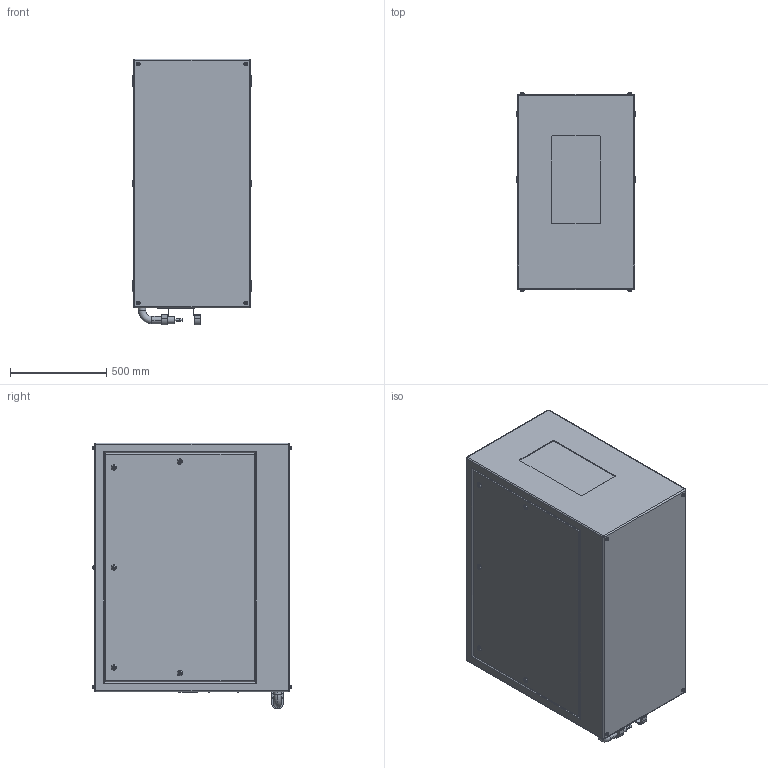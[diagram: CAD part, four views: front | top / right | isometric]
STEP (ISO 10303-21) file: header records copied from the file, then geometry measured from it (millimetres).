
FILE_DESCRIPTION (( 'STEP AP214' ), '1' );
FILE_NAME ('Oasis 59.305.P R02.STEP', '2022-08-27T16:07:31', ( '' ), ( '' ), 'SwSTEP 2.0', 'SolidWorks 2020', '' );
FILE_SCHEMA (( 'AUTOMOTIVE_DESIGN' ));
Length unit declared in the file: inch
Products named in the file (1): Oasis 59.305.P R02
Bounding box: 622.3 x 1033.27 x 1384.3 mm (x, y, z)
Volume: 801282781.5 mm3; surface area: 5972100.1 mm2
Topology: 2 solids, 8 shells, 555 faces, 1267 edges, 804 vertices
Faces by surface type: plane 307, cylinder 186, torus 54, bspline 8
Entity records: 21408 total; most frequent: CARTESIAN_POINT 3139, DIRECTION 2767, ORIENTED_EDGE 2518, EDGE_CURVE 1259, AXIS2_PLACEMENT_3D 992, VERTEX_POINT 804, VECTOR 783, LINE 783
